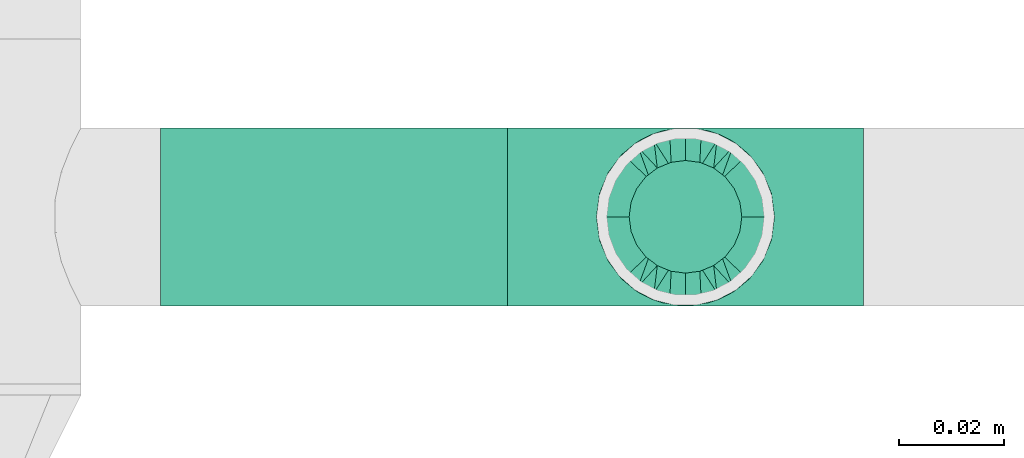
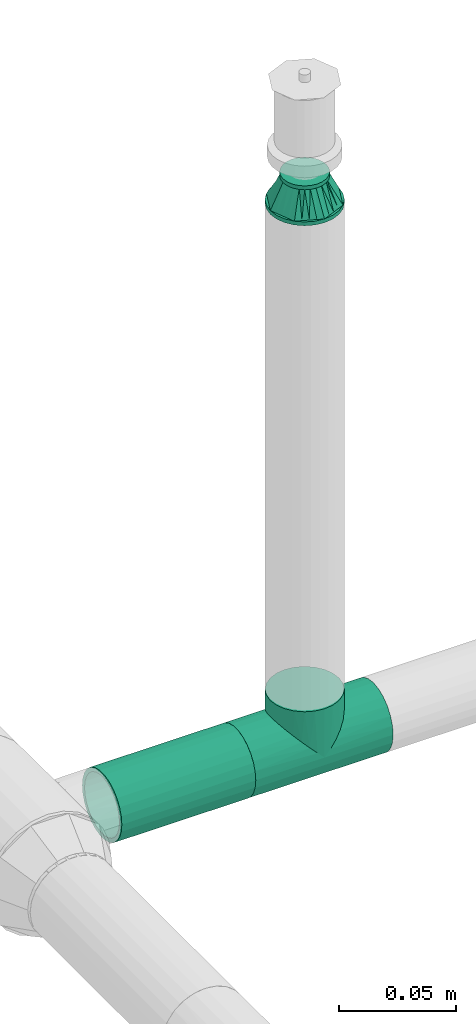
# One storey, part 91 of 157: 2 flow fittings, 1 flow segment.
"""IFC2X3 building model written with IfcOpenShell, lengths in millimetres."""

from ifc_helpers import new_model, entity, si_unit, converted_unit, derived_unit, direction, frame, origin_with_axes, origin_2d_with_axis, place, context, subcontext, project, spatial, hollow_circle, extrude, open_shell, surface_model, source, transform, mapped, type_object, element, save


model = new_model("IFC2X3")

# Units and contexts
model_context = context("Model", 3, precision=0.01, world=frame((0.0, 4.29681676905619e-09, 0.0)), true_north=direction((4.01073788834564e-13, 1.0)))
plan_context = context("Plan", 3, precision=0.01, world=frame((0.0, 4.29681676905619e-09, 0.0)), true_north=direction((4.01073788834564e-13, 1.0)))
body_context = subcontext(model_context, "Body", "Model", "MODEL_VIEW")
ifc_project = project(units=[converted_unit("PLANEANGLEUNIT", "DEGREE", entity("IfcPositiveLengthMeasure", 0.0174532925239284), si_unit("PLANEANGLEUNIT", "RADIAN"), dimensions=[0, 0, 0, 0, 0, 0, 0]), si_unit("AREAUNIT", "SQUARE_METRE"), si_unit("LENGTHUNIT", "METRE", prefix="MILLI"), si_unit("MASSUNIT", "GRAM", prefix="KILO"), si_unit("POWERUNIT", "WATT"), si_unit("PRESSUREUNIT", "PASCAL"), si_unit("FORCEUNIT", "NEWTON", prefix="KILO"), si_unit("ELECTRICCURRENTUNIT", "AMPERE"), si_unit("THERMODYNAMICTEMPERATUREUNIT", "DEGREE_CELSIUS"), si_unit("TIMEUNIT", "SECOND"), si_unit("VOLUMEUNIT", "CUBIC_METRE"), derived_unit("LINEARVELOCITYUNIT", [(si_unit("LENGTHUNIT", "METRE"), 1), (si_unit("TIMEUNIT", "SECOND"), -1)]), derived_unit("VOLUMETRICFLOWRATEUNIT", [(si_unit("VOLUMEUNIT", "CUBIC_METRE"), 1), (si_unit("TIMEUNIT", "SECOND"), -1)]), derived_unit("THERMALTRANSMITTANCEUNIT", [(si_unit("POWERUNIT", "WATT"), 1), (si_unit("THERMODYNAMICTEMPERATUREUNIT", "KELVIN"), -1), (si_unit("AREAUNIT", "SQUARE_METRE"), -1)])], contexts=[model_context, plan_context])

# Site, building, storey
site_placement = place(None, frame((0.0, -4.29681676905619e-09, 0.0), z_axis=(0.0, 0.0, 1.0), x_axis=(1.0, 0.0, 0.0)))
site = spatial("IfcSite", under=ifc_project, at=site_placement, CompositionType="ELEMENT")
building_placement = place(site_placement, frame((0.0, 4.29681676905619e-09, 0.0), z_axis=(0.0, 0.0, 1.0), x_axis=(1.0, 0.0, 0.0)))
building = spatial("IfcBuilding", under=site, at=building_placement, Name="mc-building", CompositionType="ELEMENT")
storey_placement = place(building_placement, frame((0.0, 0.0, 204000.0), z_axis=(0.0, 0.0, 1.0), x_axis=(1.0, 0.0, 0.0)))
storey = spatial("IfcBuildingStorey", under=building, at=storey_placement, Name="Nivå D", CompositionType="ELEMENT", Elevation=204000.0)

# Flow fittings
pipe_fitting_type_1 = type_object("IfcPipeFittingType", Name="magi_pipe_fe_tee_centric_90_NOR", PredefinedType="JUNCTION")
shared_shape_1 = source(origin_with_axes(), body_context, "Body", "SurfaceModel", [
    surface_model("IfcShellBasedSurfaceModel", [(-33.8, 4.37404, -16.32415), (-33.8, 0.0, -16.9), (-33.8, 16.32415, -4.37404), (-33.8, 8.45, -14.63583), (-33.8, 11.9501, -11.9501), (-33.8, 14.63583, -8.45), (-33.8, -16.9, 0.0), (-33.8, -11.9501, -11.9501), (-33.8, -14.63583, -8.45), (-33.8, -8.45, -14.63583), (-33.8, -4.37404, -16.32415), (-33.8, -16.32415, -4.37404), (-33.8, 14.63583, 8.45), (-33.8, 16.32415, 4.37404), (-33.8, -8.45, 14.63583), (-33.8, 8.45, 14.63583), (-33.8, 11.9501, 11.9501), (-33.8, 4.37404, 16.32415), (-33.8, 0.0, 16.9), (-33.8, -11.9501, 11.9501), (-33.8, -14.63583, 8.45), (-33.8, -16.32415, 4.37404), (-33.8, -4.37404, 16.32415), (-33.8, 16.9, 0.0), (33.8, 4.37404, -16.32415), (33.8, -16.9, 0.0), (33.8, 0.0, -16.9), (33.8, 14.63583, -8.45), (33.8, 8.45, -14.63583), (33.8, 16.32415, -4.37404), (33.8, 11.9501, -11.9501), (33.8, -16.32415, 4.37404), (33.8, -8.45, -14.63583), (33.8, -4.37404, -16.32415), (33.8, -11.9501, -11.9501), (33.8, -14.63583, -8.45), (33.8, -16.32415, -4.37404), (33.8, 16.32415, 4.37404), (33.8, 8.45, 14.63583), (33.8, 14.63583, 8.45), (33.8, 11.9501, 11.9501), (33.8, -8.45, 14.63583), (33.8, 4.37404, 16.32415), (33.8, -14.63583, 8.45), (33.8, -11.9501, 11.9501), (33.8, 0.0, 16.9), (33.8, -4.37404, 16.32415), (33.8, 16.9, 0.0), (16.28698, -16.28698, 4.51047), (16.9, -16.9, 0.0), (14.62704, -14.62704, 8.4652), (9.47213, -9.47213, 13.99602), (12.26343, -12.26343, 11.62834), (-16.9, -16.9, 0.0), (-16.28698, -16.28698, 4.51047), (-14.62704, -14.62704, 8.4652), (-12.26343, -12.26343, 11.62834), (-9.47213, -9.47213, 13.99602), (-6.42894, -6.42894, 15.62942), (6.42894, -6.42894, 15.62942), (3.24522, -3.24522, 16.58549), (0.0, 0.0, 16.9), (-3.24522, -3.24522, 16.58549), (3.24522, -3.24522, -16.58549), (0.0, 0.0, -16.9), (-3.24522, -3.24522, -16.58549), (-6.42894, -6.42894, -15.62942), (6.42894, -6.42894, -15.62942), (9.47213, -9.47213, -13.99602), (12.26343, -12.26343, -11.62834), (14.62704, -14.62704, -8.4652), (16.28698, -16.28698, -4.51047), (-9.47213, -9.47213, -13.99602), (-12.26343, -12.26343, -11.62834), (-16.28698, -16.28698, -4.51047), (-14.62704, -14.62704, -8.4652), (4.37404, -25.35, -16.32415), (-16.9, -25.35, 0.0), (0.0, -25.35, -16.9), (14.63583, -25.35, -8.45), (8.45, -25.35, -14.63583), (16.32415, -25.35, -4.37404), (11.9501, -25.35, -11.9501), (-11.9501, -25.35, -11.9501), (-8.45, -25.35, -14.63583), (-4.37404, -25.35, -16.32415), (-14.63583, -25.35, -8.45), (-16.32415, -25.35, -4.37404), (16.9, -25.35, 0.0), (8.45, -25.35, 14.63583), (16.32415, -25.35, 4.37404), (14.63583, -25.35, 8.45), (-8.45, -25.35, 14.63583), (11.9501, -25.35, 11.9501), (4.37404, -25.35, 16.32415), (-16.32415, -25.35, 4.37404), (-11.9501, -25.35, 11.9501), (-14.63583, -25.35, 8.45), (0.0, -25.35, 16.9), (-4.37404, -25.35, 16.32415)], [open_shell([[[0, 1, 2]], [[3, 0, 4]], [[0, 2, 5]], [[4, 0, 5]], [[6, 2, 1]], [[7, 8, 9]], [[1, 10, 9]], [[11, 6, 8]], [[1, 9, 8]], [[1, 8, 6]], [[6, 12, 2]], [[12, 13, 2]], [[14, 12, 6]], [[12, 14, 15]], [[16, 12, 15]], [[17, 15, 18]], [[19, 14, 20]], [[21, 20, 14]], [[22, 18, 14]], [[14, 6, 21]], [[14, 18, 15]], [[23, 2, 13]], [[24, 25, 26]], [[27, 24, 28]], [[27, 29, 24]], [[27, 28, 30]], [[31, 25, 24]], [[26, 32, 33]], [[26, 34, 32]], [[35, 25, 36]], [[35, 34, 26]], [[25, 35, 26]], [[24, 29, 31]], [[29, 37, 38]], [[38, 37, 39]], [[38, 31, 29]], [[38, 39, 40]], [[41, 38, 42]], [[43, 41, 44]], [[41, 43, 31]], [[41, 45, 46]], [[41, 31, 38]], [[42, 45, 41]], [[29, 47, 37]], [[31, 43, 48]], [[25, 31, 49]], [[49, 31, 48]], [[43, 50, 48]], [[44, 41, 51]], [[50, 43, 52]], [[51, 52, 44]], [[52, 43, 44]], [[53, 54, 21]], [[53, 21, 6]], [[21, 54, 20]], [[54, 55, 20]], [[56, 57, 19]], [[19, 20, 56]], [[19, 57, 14]], [[56, 20, 55]], [[14, 57, 58]], [[51, 41, 59]], [[60, 45, 61]], [[59, 46, 60]], [[46, 59, 41]], [[60, 46, 45]], [[61, 45, 42]], [[39, 37, 13]], [[16, 38, 40]], [[12, 40, 39]], [[42, 38, 15]], [[23, 37, 47]], [[62, 61, 18]], [[62, 22, 58]], [[22, 62, 18]], [[58, 22, 14]], [[61, 17, 18]], [[42, 17, 61]], [[15, 17, 42]], [[15, 38, 16]], [[12, 16, 40]], [[13, 12, 39]], [[37, 23, 13]], [[5, 27, 30]], [[23, 47, 29]], [[30, 28, 3]], [[27, 2, 29]], [[26, 33, 63]], [[26, 64, 24]], [[64, 26, 63]], [[28, 24, 0]], [[64, 0, 24]], [[4, 30, 3]], [[2, 27, 5]], [[5, 30, 4]], [[2, 23, 29]], [[65, 66, 10]], [[1, 0, 64]], [[1, 65, 10]], [[66, 9, 10]], [[0, 3, 28]], [[1, 64, 65]], [[63, 33, 67]], [[32, 34, 68]], [[69, 68, 34]], [[35, 70, 69]], [[69, 34, 35]], [[32, 68, 67]], [[36, 25, 49]], [[36, 71, 35]], [[71, 36, 49]], [[35, 71, 70]], [[72, 9, 66]], [[72, 7, 9]], [[7, 72, 73]], [[7, 73, 8]], [[74, 53, 11]], [[75, 74, 8]], [[74, 11, 8]], [[11, 53, 6]], [[75, 8, 73]], [[32, 67, 33]], [[76, 77, 78]], [[79, 76, 80]], [[79, 81, 76]], [[79, 80, 82]], [[77, 76, 81]], [[78, 83, 84]], [[84, 85, 78]], [[86, 77, 87]], [[83, 78, 86]], [[77, 86, 78]], [[81, 88, 77]], [[89, 88, 90]], [[89, 90, 91]], [[92, 77, 89]], [[89, 91, 93]], [[92, 89, 94]], [[95, 96, 97]], [[96, 95, 92]], [[92, 98, 99]], [[95, 77, 92]], [[94, 98, 92]], [[89, 77, 88]], [[77, 95, 53]], [[54, 53, 95]], [[97, 96, 56]], [[96, 92, 57]], [[95, 97, 54]], [[58, 92, 99]], [[55, 54, 97]], [[56, 55, 97]], [[58, 57, 92]], [[98, 61, 62]], [[58, 99, 62]], [[56, 96, 57]], [[62, 99, 98]], [[94, 60, 98]], [[89, 59, 94]], [[91, 90, 48]], [[52, 93, 91]], [[93, 51, 89]], [[49, 90, 88]], [[59, 60, 94]], [[51, 59, 89]], [[49, 48, 90]], [[50, 52, 91]], [[48, 50, 91]], [[51, 93, 52]], [[98, 60, 61]], [[88, 81, 49]], [[71, 49, 81]], [[79, 82, 69]], [[82, 80, 68]], [[81, 79, 71]], [[67, 80, 76]], [[70, 71, 79]], [[69, 70, 79]], [[67, 68, 80]], [[78, 64, 63]], [[67, 76, 63]], [[69, 82, 68]], [[63, 76, 78]], [[85, 65, 78]], [[84, 66, 85]], [[86, 87, 74]], [[86, 73, 83]], [[72, 84, 83]], [[53, 87, 77]], [[66, 65, 85]], [[72, 66, 84]], [[53, 74, 87]], [[75, 73, 86]], [[74, 75, 86]], [[72, 83, 73]], [[78, 65, 64]]])]),
])
flow_fitting_1_placement = place(storey_placement, frame((524840.35, 410800.0, 2880.0), z_axis=(0.0, 1.0, 0.0), x_axis=(1.0, 0.0, 0.0)))
element("IfcFlowFitting", 1, at=flow_fitting_1_placement, inside=storey, type_object=pipe_fitting_type_1, Name="magi_pipe_fe_tee_centric_90_NOR", context=body_context, shape_type="MappedRepresentation", body=[
    mapped(shared_shape_1, transform((0.0, 0.0, 0.0), scale=1.0)),
])
pipe_fitting_type_2 = type_object("IfcPipeFittingType", Name="magi_pipe_fe_reducer_centric_short_NOR", PredefinedType="TRANSITION")
shared_shape_2 = source(origin_with_axes(), body_context, "Body", "SurfaceModel", [
    surface_model("IfcShellBasedSurfaceModel", [(14.4, 5.35, -9.26647), (14.4, 0.0, -10.7), (14.4, 2.76936, -10.33541), (14.4, 10.33541, -2.76936), (14.4, 7.56604, -7.56604), (14.4, -10.33541, -2.76936), (14.4, 9.26647, -5.35), (14.4, 0.0, 10.7), (14.4, -5.35, -9.26647), (14.4, -2.76936, -10.33541), (14.4, -7.56604, -7.56604), (14.4, -9.26647, -5.35), (14.4, 10.7, 0.0), (14.4, 10.33541, 2.76936), (14.4, 9.26647, 5.35), (14.4, 7.56604, 7.56604), (14.4, 2.76936, 10.33541), (14.4, 5.35, 9.26647), (14.4, -10.33541, 2.76936), (14.4, -7.56604, 7.56604), (14.4, -9.26647, 5.35), (14.4, -10.7, 0.0), (14.4, -2.76936, 10.33541), (14.4, -5.35, 9.26647), (12.4, 2.76936, 10.33541), (12.4, -10.33541, -2.76936), (12.4, 0.0, 10.7), (12.4, 5.35, 9.26647), (12.4, 7.56604, 7.56604), (12.4, 9.26647, 5.35), (12.4, 10.33541, 2.76936), (12.4, -10.33541, 2.76936), (12.4, -2.76936, 10.33541), (12.4, -7.56604, 7.56604), (12.4, -5.35, 9.26647), (12.4, -9.26647, 5.35), (12.4, -10.7, 0.0), (12.4, 10.33541, -2.76936), (12.4, 5.35, -9.26647), (12.4, 9.26647, -5.35), (12.4, 7.56604, -7.56604), (12.4, 2.76936, -10.33541), (12.4, -9.26647, -5.35), (12.4, -5.35, -9.26647), (12.4, -7.56604, -7.56604), (12.4, 0.0, -10.7), (12.4, -2.76936, -10.33541), (12.4, 10.7, 0.0), (-2.0, 11.9501, 11.9501), (-2.0, 0.0, 16.9), (-2.0, 4.37404, 16.32415), (-2.0, 8.45, 14.63583), (-2.0, 14.63583, 8.45), (-2.0, 16.32415, 4.37404), (-2.0, -16.32415, 4.37404), (-2.0, -8.45, 14.63583), (-2.0, -14.63583, 8.45), (-2.0, -11.9501, 11.9501), (-2.0, -4.37404, 16.32415), (-2.0, -16.32415, -4.37404), (-2.0, -16.9, 0.0), (-2.0, -8.45, -14.63583), (-2.0, 16.32415, -4.37404), (-2.0, 11.9501, -11.9501), (-2.0, 14.63583, -8.45), (-2.0, 8.45, -14.63583), (-2.0, 4.37404, -16.32415), (-2.0, 0.0, -16.9), (-2.0, -11.9501, -11.9501), (-2.0, -14.63583, -8.45), (-2.0, -4.37404, -16.32415), (-2.0, 16.9, 0.0), (0.0, 4.37404, -16.32415), (0.0, 8.45, -14.63583), (0.0, 11.9501, -11.9501), (0.0, 0.0, -16.9), (0.0, 16.32415, -4.37404), (0.0, 16.32415, 4.37404), (0.0, 14.63583, -8.45), (0.0, -8.45, -14.63583), (0.0, -4.37404, -16.32415), (0.0, -11.9501, -11.9501), (0.0, -16.32415, -4.37404), (0.0, -14.63583, -8.45), (0.0, -16.32415, 4.37404), (0.0, 16.9, 0.0), (0.0, 14.63583, 8.45), (0.0, 11.9501, 11.9501), (0.0, 4.37404, 16.32415), (0.0, 8.45, 14.63583), (0.0, 0.0, 16.9), (0.0, -14.63583, 8.45), (0.0, -16.9, 0.0), (0.0, -8.45, 14.63583), (0.0, -11.9501, 11.9501), (0.0, -4.37404, 16.32415), (12.4, 9.3625, -2.31662), (0.0, 14.42505, -5.97505), (0.0, 15.66253, -2.98753), (12.4, -6.6875, -6.94985), (0.0, -13.18758, -8.96258), (0.0, 2.98753, -15.66253), (12.4, 0.0, -9.26647), (12.4, 6.6875, -6.94985), (0.0, 8.96258, -13.18758), (12.4, -9.3625, -2.31662), (0.0, -15.66253, -2.98753), (0.0, -14.42505, -5.97505), (0.0, 5.97505, -14.42505), (0.0, -2.98753, -15.66253), (0.0, -8.96258, -13.18758), (0.0, 13.18758, -8.96258), (12.4, 8.025, -4.63324), (12.4, -2.675, -9.26647), (12.4, 2.675, -9.26647), (0.0, -5.97505, -14.42505), (12.4, -8.025, -4.63324), (12.4, -9.3625, 2.31662), (0.0, -14.42505, 5.97505), (0.0, -15.66253, 2.98753), (12.4, 6.6875, 6.94985), (0.0, 13.18758, 8.96258), (0.0, -2.98753, 15.66253), (12.4, 0.0, 9.26647), (12.4, -6.6875, 6.94985), (0.0, -8.96258, 13.18758), (12.4, 9.3625, 2.31662), (0.0, 15.66253, 2.98753), (0.0, 14.42505, 5.97505), (0.0, -5.97505, 14.42505), (0.0, 2.98753, 15.66253), (0.0, 8.96258, 13.18758), (0.0, -13.18758, 8.96258), (12.4, -8.025, 4.63324), (12.4, 2.675, 9.26647), (12.4, -2.675, 9.26647), (0.0, 5.97505, 14.42505), (12.4, 8.025, 4.63324)], [open_shell([[[0, 1, 2]], [[3, 0, 4]], [[5, 0, 3]], [[3, 4, 6]], [[7, 5, 3]], [[1, 8, 9]], [[1, 0, 8]], [[10, 5, 11]], [[5, 10, 8]], [[0, 5, 8]], [[3, 12, 13]], [[13, 14, 15]], [[13, 15, 16]], [[7, 3, 16]], [[16, 15, 17]], [[7, 18, 5]], [[18, 19, 20]], [[21, 5, 18]], [[19, 22, 23]], [[22, 19, 18]], [[7, 22, 18]], [[13, 16, 3]], [[24, 25, 26]], [[27, 25, 24]], [[28, 29, 30]], [[28, 25, 27]], [[31, 26, 25]], [[32, 33, 34]], [[33, 32, 31]], [[33, 31, 35]], [[32, 26, 31]], [[31, 25, 36]], [[30, 37, 28]], [[25, 28, 37]], [[38, 37, 39]], [[37, 38, 25]], [[38, 39, 40]], [[41, 25, 38]], [[42, 43, 44]], [[43, 42, 25]], [[43, 45, 46]], [[43, 25, 41]], [[41, 45, 43]], [[37, 30, 47]], [[25, 5, 36]], [[42, 11, 25]], [[8, 44, 43]], [[42, 44, 10]], [[9, 43, 46]], [[25, 11, 5]], [[5, 21, 36]], [[9, 8, 43]], [[10, 44, 8]], [[10, 11, 42]], [[1, 9, 46]], [[46, 45, 1]], [[41, 2, 45]], [[38, 0, 41]], [[6, 40, 39]], [[38, 40, 4]], [[3, 39, 37]], [[38, 4, 0]], [[0, 2, 41]], [[12, 3, 37]], [[6, 39, 3]], [[6, 4, 40]], [[47, 12, 37]], [[45, 2, 1]], [[30, 13, 47]], [[29, 14, 30]], [[17, 28, 27]], [[29, 28, 15]], [[16, 27, 24]], [[30, 14, 13]], [[13, 12, 47]], [[16, 17, 27]], [[15, 28, 17]], [[15, 14, 29]], [[7, 16, 24]], [[24, 26, 7]], [[32, 22, 26]], [[34, 23, 32]], [[20, 33, 35]], [[34, 33, 19]], [[18, 35, 31]], [[34, 19, 23]], [[23, 22, 32]], [[21, 18, 31]], [[20, 35, 18]], [[20, 19, 33]], [[36, 21, 31]], [[26, 22, 7]], [[48, 49, 50]], [[48, 50, 51]], [[48, 52, 53]], [[48, 53, 49]], [[49, 53, 54]], [[55, 56, 57]], [[55, 58, 49]], [[56, 55, 49]], [[49, 54, 56]], [[54, 59, 60]], [[54, 53, 61]], [[53, 62, 63]], [[63, 62, 64]], [[63, 65, 66]], [[61, 53, 63]], [[67, 63, 66]], [[59, 68, 69]], [[68, 59, 61]], [[61, 67, 70]], [[59, 54, 61]], [[63, 67, 61]], [[53, 71, 62]], [[72, 73, 74]], [[75, 72, 74]], [[74, 76, 77]], [[76, 74, 78]], [[74, 77, 79]], [[75, 79, 80]], [[75, 74, 79]], [[81, 82, 83]], [[82, 81, 79]], [[79, 84, 82]], [[77, 76, 85]], [[77, 86, 87]], [[77, 87, 88]], [[88, 84, 79]], [[88, 87, 89]], [[84, 88, 90]], [[90, 91, 84]], [[92, 82, 84]], [[91, 93, 94]], [[91, 90, 93]], [[93, 90, 95]], [[79, 77, 88]], [[59, 82, 60]], [[69, 83, 59]], [[79, 68, 61]], [[69, 68, 81]], [[80, 61, 70]], [[59, 83, 82]], [[82, 92, 60]], [[80, 79, 61]], [[81, 68, 79]], [[81, 83, 69]], [[75, 80, 70]], [[70, 67, 75]], [[66, 72, 67]], [[65, 73, 66]], [[78, 63, 64]], [[65, 63, 74]], [[76, 64, 62]], [[65, 74, 73]], [[73, 72, 66]], [[85, 76, 62]], [[78, 64, 76]], [[78, 74, 63]], [[71, 85, 62]], [[67, 72, 75]], [[53, 77, 71]], [[52, 86, 53]], [[89, 48, 51]], [[52, 48, 87]], [[88, 51, 50]], [[53, 86, 77]], [[77, 85, 71]], [[88, 89, 51]], [[87, 48, 89]], [[87, 86, 52]], [[90, 88, 50]], [[50, 49, 90]], [[58, 95, 49]], [[55, 93, 58]], [[91, 57, 56]], [[55, 57, 94]], [[84, 56, 54]], [[55, 94, 93]], [[93, 95, 58]], [[92, 84, 54]], [[91, 56, 84]], [[91, 94, 57]], [[60, 92, 54]], [[49, 95, 90]], [[27, 34, 47]], [[47, 34, 43]], [[43, 38, 47]], [[43, 34, 36]], [[90, 87, 94]], [[92, 94, 87]], [[87, 74, 92]], [[75, 92, 74]], [[81, 92, 75]], [[74, 87, 85]], [[96, 97, 98]], [[81, 99, 100]], [[101, 102, 75]], [[98, 85, 47]], [[74, 103, 104]], [[104, 103, 38]], [[105, 106, 107]], [[38, 108, 104]], [[102, 109, 75]], [[110, 99, 81]], [[47, 96, 98]], [[103, 111, 112]], [[109, 102, 113]], [[36, 92, 106]], [[102, 101, 114]], [[110, 115, 43]], [[96, 112, 97]], [[107, 116, 105]], [[36, 106, 105]], [[113, 115, 109]], [[43, 115, 113]], [[116, 107, 100]], [[108, 38, 114]], [[111, 103, 74]], [[111, 97, 112]], [[99, 110, 43]], [[116, 100, 99]], [[101, 108, 114]], [[117, 118, 119]], [[87, 120, 121]], [[122, 123, 90]], [[119, 92, 36]], [[94, 124, 125]], [[125, 124, 34]], [[126, 127, 128]], [[34, 129, 125]], [[123, 130, 90]], [[131, 120, 87]], [[36, 117, 119]], [[124, 132, 133]], [[130, 123, 134]], [[47, 85, 127]], [[123, 122, 135]], [[131, 136, 27]], [[117, 133, 118]], [[128, 137, 126]], [[47, 127, 126]], [[134, 136, 130]], [[27, 136, 134]], [[137, 128, 121]], [[129, 34, 135]], [[132, 124, 94]], [[132, 118, 133]], [[120, 131, 27]], [[137, 121, 120]], [[122, 129, 135]]])]),
])
flow_fitting_2_placement = place(storey_placement, frame((524840.35, 410800.0, 3160.14799999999), z_axis=(0.0, -1.0, 0.0), x_axis=(0.0, 0.0, 1.0)))
element("IfcFlowFitting", 2, at=flow_fitting_2_placement, inside=storey, type_object=pipe_fitting_type_2, Name="magi_pipe_fe_reducer_centric_short_NOR", context=body_context, shape_type="MappedRepresentation", body=[
    mapped(shared_shape_2, transform((0.0, 0.0, 0.0), scale=1.0)),
])

# Flow segment
pipe_segment_type = type_object("IfcPipeSegmentType", Name="Stålrør normaltykke", PredefinedType="RIGIDSEGMENT")
shared_shape_3 = source(origin_with_axes(), body_context, "Body", "SweptSolid", [
    extrude(hollow_circle(Radius=16.9, WallThickness=2.0, at=origin_2d_with_axis()), frame((0.0, 0.0, 0.0), z_axis=(1.0, 0.0, 0.0), x_axis=(0.0, 1.0, 0.0)), (0.0, 0.0, 1.0), 65.9),
])
flow_segment_placement = place(storey_placement, frame((524806.55, 410800.0, 2880.0), z_axis=(0.0, 0.0, 1.0), x_axis=(-1.0, 0.0, 0.0)))
element("IfcFlowSegment", 3, at=flow_segment_placement, inside=storey, type_object=pipe_segment_type, Name="Stålrør normaltykke", context=body_context, shape_type="MappedRepresentation", body=[
    mapped(shared_shape_3, transform((0.0, 0.0, 0.0), scale=1.0)),
])

save(model, "model.ifc")
